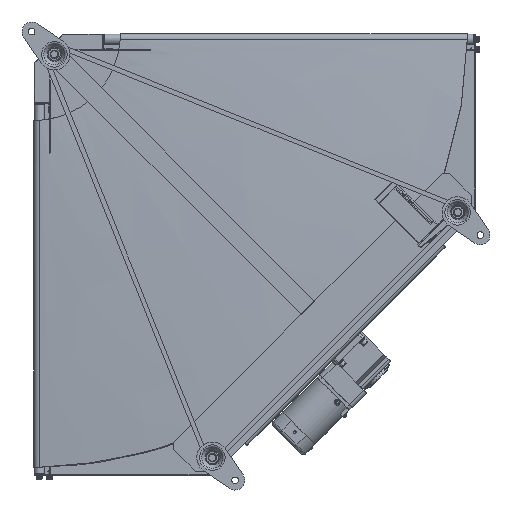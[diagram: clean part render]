
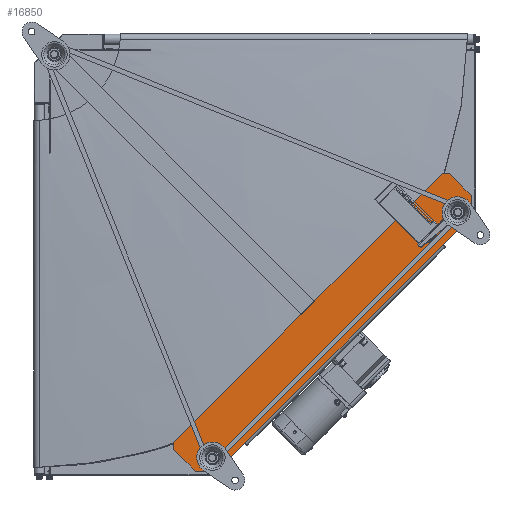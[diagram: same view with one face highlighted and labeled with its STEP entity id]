
A CAD part, front view. The second image highlights one B-rep face of the part: STEP entity #16850.
In plain terms, the highlighted planar face has unit normal (0, -1, 0).
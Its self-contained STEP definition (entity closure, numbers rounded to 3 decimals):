
#112 = DIRECTION ( 'NONE',  ( -1., 0., 0. ) ) ;
#342 = LINE ( 'NONE', #25979, #45818 ) ;
#772 = VERTEX_POINT ( 'NONE', #33074 ) ;
#1936 = CARTESIAN_POINT ( 'NONE',  ( 800.091, -167.5, -273.297 ) ) ;
#2611 = CARTESIAN_POINT ( 'NONE',  ( 315.723, -167.5, -856.66 ) ) ;
#4034 = CARTESIAN_POINT ( 'NONE',  ( 856.66, -167.5, -315.723 ) ) ;
#5227 = LINE ( 'NONE', #45959, #20436 ) ;
#5505 = DIRECTION ( 'NONE',  ( 0.707, 0., -0.707 ) ) ;
#6019 = VERTEX_POINT ( 'NONE', #2611 ) ;
#8307 = DIRECTION ( 'NONE',  ( 0., -1., 0. ) ) ;
#9344 = DIRECTION ( 'NONE',  ( 0., 0., 1. ) ) ;
#9400 = VECTOR ( 'NONE', #9344, 1000. ) ;
#10271 = VERTEX_POINT ( 'NONE', #20304 ) ;
#10814 = ORIENTED_EDGE ( 'NONE', *, *, #50639, .F. ) ;
#12427 = LINE ( 'NONE', #1936, #38712 ) ;
#13063 = DIRECTION ( 'NONE',  ( 0., 0., -1. ) ) ;
#13893 = CARTESIAN_POINT ( 'NONE',  ( 800.091, -167.5, -273.297 ) ) ;
#15135 = VERTEX_POINT ( 'NONE', #54157 ) ;
#16283 = LINE ( 'NONE', #49292, #39469 ) ;
#16850 = ADVANCED_FACE ( 'NONE', ( #41015 ), #54078, .T. ) ;
#17431 = DIRECTION ( 'NONE',  ( -0.707, 0., -0.707 ) ) ;
#18554 = DIRECTION ( 'NONE',  ( 0., 0., -1. ) ) ;
#20255 = VERTEX_POINT ( 'NONE', #47925 ) ;
#20304 = CARTESIAN_POINT ( 'NONE',  ( 358.15, -167.5, -856.66 ) ) ;
#20436 = VECTOR ( 'NONE', #5505, 1000. ) ;
#21462 = EDGE_CURVE ( 'NONE', #772, #37335, #5227, .T. ) ;
#21899 = ORIENTED_EDGE ( 'NONE', *, *, #44995, .F. ) ;
#22809 = CARTESIAN_POINT ( 'NONE',  ( 358.15, -167.5, -856.66 ) ) ;
#22991 = LINE ( 'NONE', #60283, #9400 ) ;
#25610 = LINE ( 'NONE', #63777, #46403 ) ;
#25979 = CARTESIAN_POINT ( 'NONE',  ( 273.297, -167.5, -800.091 ) ) ;
#26730 = EDGE_LOOP ( 'NONE', ( #33788, #21899, #66285, #10814, #48457, #29040, #48266, #65831 ) ) ;
#27812 = VECTOR ( 'NONE', #112, 1000. ) ;
#29040 = ORIENTED_EDGE ( 'NONE', *, *, #21462, .F. ) ;
#31446 = EDGE_CURVE ( 'NONE', #15135, #43198, #342, .T. ) ;
#33074 = CARTESIAN_POINT ( 'NONE',  ( 814.233, -167.5, -273.297 ) ) ;
#33788 = ORIENTED_EDGE ( 'NONE', *, *, #64850, .F. ) ;
#35987 = CARTESIAN_POINT ( 'NONE',  ( 315.723, -167.5, -856.66 ) ) ;
#37335 = VERTEX_POINT ( 'NONE', #4034 ) ;
#38086 = EDGE_CURVE ( 'NONE', #10271, #6019, #50185, .T. ) ;
#38712 = VECTOR ( 'NONE', #53051, 1000. ) ;
#39469 = VECTOR ( 'NONE', #45081, 1000. ) ;
#41015 = FACE_OUTER_BOUND ( 'NONE', #26730, .T. ) ;
#43198 = VERTEX_POINT ( 'NONE', #13893 ) ;
#44276 = VECTOR ( 'NONE', #17431, 1000. ) ;
#44995 = EDGE_CURVE ( 'NONE', #6019, #20255, #16283, .T. ) ;
#45081 = DIRECTION ( 'NONE',  ( -0.707, 0., 0.707 ) ) ;
#45818 = VECTOR ( 'NONE', #61287, 1000. ) ;
#45959 = CARTESIAN_POINT ( 'NONE',  ( 814.233, -167.5, -273.297 ) ) ;
#46403 = VECTOR ( 'NONE', #13063, 1000. ) ;
#46442 = EDGE_CURVE ( 'NONE', #37335, #54202, #25610, .T. ) ;
#47925 = CARTESIAN_POINT ( 'NONE',  ( 273.297, -167.5, -814.233 ) ) ;
#48266 = ORIENTED_EDGE ( 'NONE', *, *, #57006, .F. ) ;
#48457 = ORIENTED_EDGE ( 'NONE', *, *, #46442, .F. ) ;
#48503 = CARTESIAN_POINT ( 'NONE',  ( 856.66, -167.5, -358.15 ) ) ;
#49292 = CARTESIAN_POINT ( 'NONE',  ( 273.297, -167.5, -814.233 ) ) ;
#50185 = LINE ( 'NONE', #35987, #27812 ) ;
#50639 = EDGE_CURVE ( 'NONE', #54202, #10271, #58627, .T. ) ;
#53051 = DIRECTION ( 'NONE',  ( 1., 0., 0. ) ) ;
#54078 = PLANE ( 'NONE',  #65328 ) ;
#54157 = CARTESIAN_POINT ( 'NONE',  ( 273.297, -167.5, -800.091 ) ) ;
#54202 = VERTEX_POINT ( 'NONE', #48503 ) ;
#57006 = EDGE_CURVE ( 'NONE', #43198, #772, #12427, .T. ) ;
#58627 = LINE ( 'NONE', #22809, #44276 ) ;
#59225 = CARTESIAN_POINT ( 'NONE',  ( 0., -167.5, 0. ) ) ;
#60283 = CARTESIAN_POINT ( 'NONE',  ( 273.297, -167.5, -800.091 ) ) ;
#61287 = DIRECTION ( 'NONE',  ( 0.707, 0., 0.707 ) ) ;
#63777 = CARTESIAN_POINT ( 'NONE',  ( 856.66, -167.5, -358.15 ) ) ;
#64850 = EDGE_CURVE ( 'NONE', #20255, #15135, #22991, .T. ) ;
#65328 = AXIS2_PLACEMENT_3D ( 'NONE', #59225, #8307, #18554 ) ;
#65831 = ORIENTED_EDGE ( 'NONE', *, *, #31446, .F. ) ;
#66285 = ORIENTED_EDGE ( 'NONE', *, *, #38086, .F. ) ;
